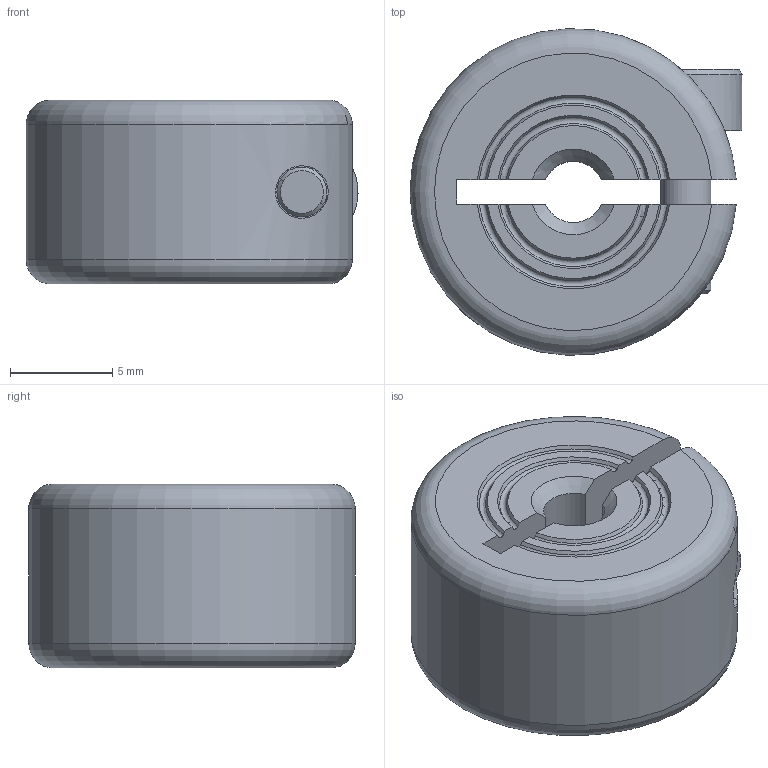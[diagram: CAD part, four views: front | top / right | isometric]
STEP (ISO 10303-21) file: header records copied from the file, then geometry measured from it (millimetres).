
FILE_DESCRIPTION((''),'2;1');
FILE_NAME('MCL-3-F','2016-09-08T',('SYSTEM'),(''),'PRO/ENGINEER BY PARAMETRIC TECHNOLOGY CORPORATION, 2015110','PRO/ENGINEER BY PARAMETRIC TECHNOLOGY CORPORATION, 2015110','');
FILE_SCHEMA(('AUTOMOTIVE_DESIGN { 1 0 10303 214 1 1 1 1 }'));
Length unit declared in the file: inch
Products named in the file (1): MCL-3-F
Bounding box: 16.26 x 15.99 x 9 mm (x, y, z)
Volume: 1577.8 mm3; surface area: 1241.2 mm2
Topology: 1 solids, 1 shells, 57 faces, 149 edges, 98 vertices
Faces by surface type: plane 23, cone 16, cylinder 12, torus 6
Entity records: 2405 total; most frequent: CARTESIAN_POINT 560, ORIENTED_EDGE 298, DIRECTION 275, EDGE_CURVE 149, AXIS2_PLACEMENT_3D 108, VERTEX_POINT 98, EDGE_LOOP 63, VECTOR 59
